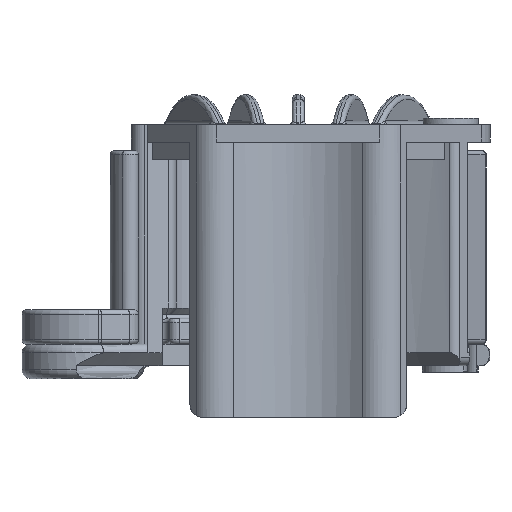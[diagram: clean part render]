
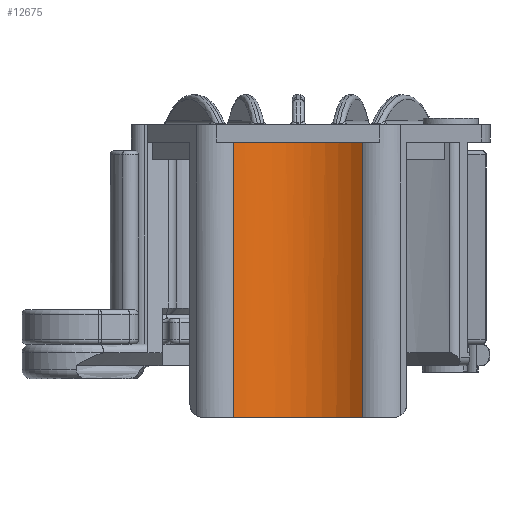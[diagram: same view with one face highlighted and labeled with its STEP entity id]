
A CAD part, left-side view. The second image highlights one B-rep face of the part: STEP entity #12675.
In plain terms, the highlighted cylindrical face has radius 11.5 mm (diameter 23 mm), a partial arc.
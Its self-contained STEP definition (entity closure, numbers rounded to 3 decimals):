
#3751=CARTESIAN_POINT('',(0.,0.,-6.));
#3752=DIRECTION('',(0.,0.,-1.));
#3753=DIRECTION('',(0.758,0.653,0.));
#3754=AXIS2_PLACEMENT_3D('',#3751,#3752,#3753);
#3781=DIRECTION('',(0.,0.,-1.));
#3782=VECTOR('',#3781,32.);
#3783=CARTESIAN_POINT('',(8.714,-7.505,26.));
#3784=LINE('892',#3783,#3782);
#3785=CARTESIAN_POINT('',(0.,0.,26.));
#3786=DIRECTION('',(0.,0.,-1.));
#3787=DIRECTION('',(0.758,0.653,0.));
#3788=AXIS2_PLACEMENT_3D('',#3785,#3786,#3787);
#3790=CARTESIAN_POINT('',(0.,0.,26.));
#3791=DIRECTION('',(0.,0.,-1.));
#3792=DIRECTION('',(0.992,-0.125,0.));
#3793=AXIS2_PLACEMENT_3D('',#3790,#3791,#3792);
#3795=DIRECTION('',(0.,0.,-1.));
#3796=VECTOR('',#3795,32.);
#3797=CARTESIAN_POINT('',(8.714,7.505,26.));
#3798=LINE('893',#3797,#3796);
#3852=CARTESIAN_POINT('',(0.,0.,26.));
#3853=DIRECTION('',(0.,0.,1.));
#3854=DIRECTION('',(0.992,-0.125,0.));
#3855=AXIS2_PLACEMENT_3D('',#3852,#3853,#3854);
#5424=CARTESIAN_POINT('',(8.714,7.505,-6.));
#5425=CARTESIAN_POINT('',(8.714,-7.505,-6.));
#5426=VERTEX_POINT('',#5424);
#5427=VERTEX_POINT('',#5425);
#5853=CARTESIAN_POINT('',(8.714,-7.505,26.));
#5855=VERTEX_POINT('',#5853);
#5856=CARTESIAN_POINT('',(8.714,7.505,26.));
#5858=VERTEX_POINT('',#5856);
#5860=CARTESIAN_POINT('',(11.41,-1.439,26.));
#5861=CARTESIAN_POINT('',(11.41,1.439,26.));
#5862=VERTEX_POINT('',#5860);
#5863=VERTEX_POINT('',#5861);
#12658=CARTESIAN_POINT('',(0.,0.,-6.));
#12659=DIRECTION('',(0.,0.,1.));
#12660=DIRECTION('',(0.,1.,0.));
#12661=AXIS2_PLACEMENT_3D('',#12658,#12659,#12660);
#12662=CYLINDRICAL_SURFACE('112',#12661,11.5);
#12663=ORIENTED_EDGE('892',*,*,#12637,.T.);
#12664=ORIENTED_EDGE('466',*,*,#12594,.F.);
#12666=ORIENTED_EDGE('893',*,*,#12665,.F.);
#12668=ORIENTED_EDGE('890',*,*,#12667,.T.);
#12670=ORIENTED_EDGE('889',*,*,#12669,.F.);
#12672=ORIENTED_EDGE('891',*,*,#12671,.T.);
#12673=EDGE_LOOP('112',(#12663,#12664,#12666,#12668,#12670,#12672));
#12674=FACE_OUTER_BOUND('112',#12673,.F.);
#3755=CIRCLE('466',#3754,11.5);
#3789=CIRCLE('890',#3788,11.5);
#3794=CIRCLE('891',#3793,11.5);
#3856=CIRCLE('889',#3855,11.5);
#12594=EDGE_CURVE('466',#5426,#5427,#3755,.T.);
#12637=EDGE_CURVE('892',#5855,#5427,#3784,.T.);
#12665=EDGE_CURVE('893',#5858,#5426,#3798,.T.);
#12667=EDGE_CURVE('890',#5858,#5863,#3789,.T.);
#12669=EDGE_CURVE('889',#5862,#5863,#3856,.T.);
#12671=EDGE_CURVE('891',#5862,#5855,#3794,.T.);
#12675=ADVANCED_FACE('112',(#12674),#12662,.F.);
